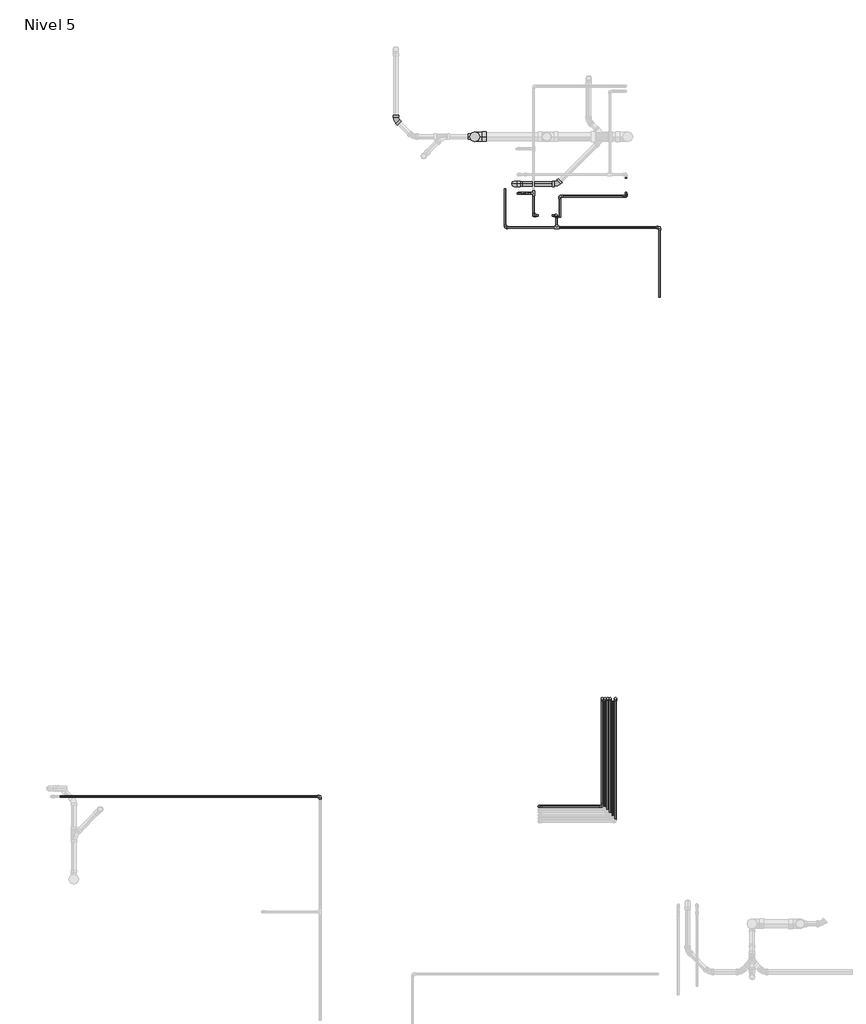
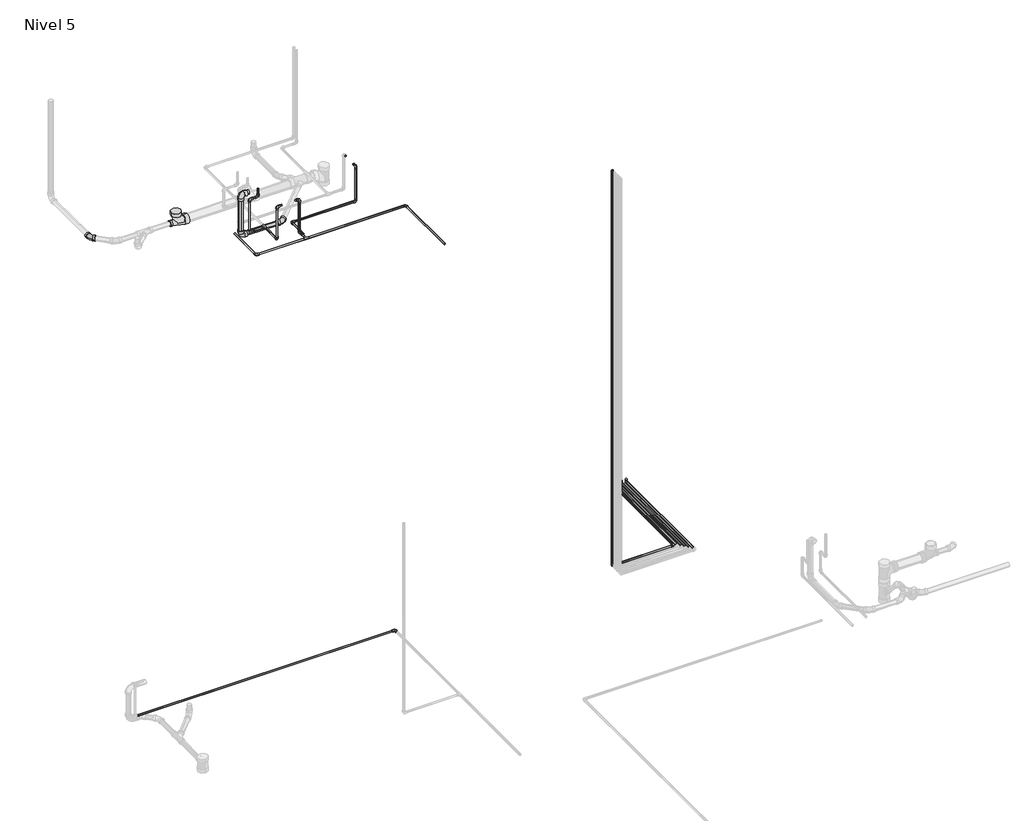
# One storey, part 5 of 6: 31 pipe segments, 27 pipe fittings.
"""IFC4 building model written with IfcOpenShell, lengths in millimetres."""

from ifc_helpers import new_model, si_unit, point, frame, frame_2d, origin, place, context, project, spatial, circle_curve, trimmed, segment, composite_curve, outline, extrude, transform, mapped, element, save
from components import pipe_fitting_ab418b84, pipe_fitting_44a425ca, m_codo_pvc_serie_40_9ad74631, m_codo_pvc_serie_40_d13c4332, m_codo_pvc_serie_40_dwv1_6f1a2495

model = new_model("IFC4")

# Units and contexts
model_context = context("Model", 3, world=origin())
ifc_project = project(units=[si_unit("LENGTHUNIT", "METRE", prefix="MILLI")], contexts=[model_context])

# Site, building, storey
site = spatial("IfcSite", under=ifc_project)
building = spatial("IfcBuilding", under=site)
storey = spatial("IfcBuildingStorey", under=building, Name="Nivel 5", Elevation=10750.0)

# Pipe fittings
placement = place(None, origin())
pipe_fitting_shape = pipe_fitting_ab418b84(model_context)
element("IfcPipeFitting", 1, ObjectType="M_Te - PVC - Serie 40 : Estándar", at=placement, inside=storey, context=model_context, shape_type="MappedRepresentation", body=[
    mapped(pipe_fitting_shape, transform((4675.7909326, 15776.6215833, 10700.0), x_axis=(0.0, -1.0, 0.0), y_axis=(1.0, 0.0, 0.0), z_axis=(0.0, 0.0, 1.0))),
])
element("IfcPipeFitting", 2, ObjectType="M_Te - PVC - Serie 40 : Estándar", at=placement, inside=storey, context=model_context, shape_type="MappedRepresentation", body=[
    mapped(pipe_fitting_shape, transform((4965.7909326, 15346.0079275, 10700.0), x_axis=(1.0, 0.0, 0.0), y_axis=(0.0, -1.0, 0.0), z_axis=(0.0, 0.0, -1.0))),
])
element("IfcPipeFitting", 3, ObjectType="M_Te - PVC - Serie 40 : Estándar", at=placement, inside=storey, context=model_context, shape_type="MappedRepresentation", body=[
    mapped(pipe_fitting_shape, transform((5541.6630441, 9398.2681394, 10700.0), x_axis=(0.0, 0.0, 1.0), y_axis=(0.0, 1.0, 0.0), z_axis=(-1.0, 0.0, 0.0))),
])
element("IfcPipeFitting", 4, ObjectType="M_Te - PVC - Serie 40 : Estándar", at=placement, inside=storey, context=model_context, shape_type="MappedRepresentation", body=[
    mapped(pipe_fitting_shape, transform((5577.0674476, 9399.5181394, 10700.0), x_axis=(0.0, 0.0, 1.0), y_axis=(0.0, 1.0, 0.0), z_axis=(-1.0, 0.0, 0.0))),
])
element("IfcPipeFitting", 5, ObjectType="M_Te - PVC - Serie 40 : Estándar", at=placement, inside=storey, context=model_context, shape_type="MappedRepresentation", body=[
    mapped(pipe_fitting_shape, transform((5611.6630441, 9399.5181394, 10700.0), x_axis=(0.0, 0.0, 1.0), y_axis=(0.0, 1.0, 0.0), z_axis=(-1.0, 0.0, 0.0))),
])
element("IfcPipeFitting", 6, ObjectType="M_Te - PVC - Serie 40 : Estándar", at=placement, inside=storey, context=model_context, shape_type="MappedRepresentation", body=[
    mapped(pipe_fitting_shape, transform((5642.0674476, 9399.5181394, 10700.0), x_axis=(0.0, 0.0, 1.0), y_axis=(0.0, 1.0, 0.0), z_axis=(-1.0, 0.0, 0.0))),
])
element("IfcPipeFitting", 7, ObjectType="M_Te - PVC - Serie 40 : Estándar", at=placement, inside=storey, context=model_context, shape_type="MappedRepresentation", body=[
    mapped(pipe_fitting_shape, transform((5709.5674476, 9399.5181394, 10700.0), x_axis=(0.0, 0.0, 1.0), y_axis=(0.0, 1.0, 0.0), z_axis=(-1.0, 0.0, 0.0))),
])
pipe_fitting_2_shape = pipe_fitting_44a425ca(model_context)
element("IfcPipeFitting", 8, ObjectType="M_Sanitario con te de reducción - PVC - Serie 40 - DWV : Estándar", at=placement, inside=storey, context=model_context, shape_type="MappedRepresentation", body=[
    mapped(pipe_fitting_2_shape, transform((3931.4116183, 16491.6039726, 10600.0), x_axis=(-1.0, 0.0, 0.0), y_axis=(0.0, 0.0, -1.0), z_axis=(0.0, -1.0, 0.0))),
])
m_codo_pvc_serie_40_shape = m_codo_pvc_serie_40_9ad74631(model_context)
element("IfcPipeFitting", 9, ObjectType="M_Codo - PVC - Serie 40 : Estándar", at=placement, inside=storey, context=model_context, shape_type="MappedRepresentation", body=[
    mapped(m_codo_pvc_serie_40_shape, transform((4589.8538958, 15776.6215833, 11150.0), x_axis=(0.0, 0.0, -1.0), y_axis=(-1.0, 0.0, 0.0), z_axis=(0.0, 1.0, 0.0))),
])
element("IfcPipeFitting", 10, ObjectType="M_Codo - PVC - Serie 40 : Estándar", at=placement, inside=storey, context=model_context, shape_type="MappedRepresentation", body=[
    mapped(m_codo_pvc_serie_40_shape, transform((4479.8538958, 15776.6215833, 11150.0), x_axis=(-1.0, 0.0, 0.0), y_axis=(0.0, 0.0, -1.0), z_axis=(0.0, -1.0, 0.0))),
])
element("IfcPipeFitting", 11, ObjectType="M_Codo - PVC - Serie 40 : Estándar", at=placement, inside=storey, context=model_context, shape_type="MappedRepresentation", body=[
    mapped(m_codo_pvc_serie_40_shape, transform((4479.8538958, 15776.6215833, 10700.0), x_axis=(0.0, 0.0, -1.0), y_axis=(1.0, 0.0, 0.0), z_axis=(0.0, -1.0, 0.0))),
])
element("IfcPipeFitting", 12, ObjectType="M_Codo - PVC - Serie 40 : Estándar", at=placement, inside=storey, context=model_context, shape_type="MappedRepresentation", body=[
    mapped(m_codo_pvc_serie_40_shape, transform((4965.7909326, 15495.0892611, 10700.0), x_axis=(0.0, 1.0, 0.0), y_axis=(0.0, 0.0, 1.0), z_axis=(1.0, 0.0, 0.0))),
])
element("IfcPipeFitting", 13, ObjectType="M_Codo - PVC - Serie 40 : Estándar", at=placement, inside=storey, context=model_context, shape_type="MappedRepresentation", body=[
    mapped(m_codo_pvc_serie_40_shape, transform((4965.7909326, 15495.0892611, 11150.0), x_axis=(0.0, 0.0, 1.0), y_axis=(-1.0, 0.0, 0.0), z_axis=(0.0, -1.0, 0.0))),
])
element("IfcPipeFitting", 14, ObjectType="M_Codo - PVC - Serie 40 : Estándar", at=placement, inside=storey, context=model_context, shape_type="MappedRepresentation", body=[
    mapped(m_codo_pvc_serie_40_shape, transform((4675.7909326, 15495.0892611, 11150.0), x_axis=(-1.0, 0.0, 0.0), y_axis=(0.0, 0.0, -1.0), z_axis=(0.0, -1.0, 0.0))),
])
element("IfcPipeFitting", 15, ObjectType="M_Codo - PVC - Serie 40 : Estándar", at=placement, inside=storey, context=model_context, shape_type="MappedRepresentation", body=[
    mapped(m_codo_pvc_serie_40_shape, transform((4675.7909326, 15495.0892611, 10700.0), x_axis=(0.0, 0.0, -1.0), y_axis=(0.0, 1.0, 0.0), z_axis=(1.0, 0.0, 0.0))),
])
element("IfcPipeFitting", 16, ObjectType="M_Codo - PVC - Serie 40 : Estándar", at=placement, inside=storey, context=model_context, shape_type="MappedRepresentation", body=[
    mapped(m_codo_pvc_serie_40_shape, transform((5007.0556508, 15740.0892611, 10670.0), x_axis=(-1.0, 0.0, 0.0), y_axis=(0.0, -1.0, 0.0), z_axis=(0.0, 0.0, 1.0))),
])
element("IfcPipeFitting", 17, ObjectType="M_Codo - PVC - Serie 40 : Estándar", at=placement, inside=storey, context=model_context, shape_type="MappedRepresentation", body=[
    mapped(m_codo_pvc_serie_40_shape, transform((5843.3695091, 15740.0892611, 10670.0), x_axis=(1.0, 0.0, 0.0), y_axis=(0.0, 0.0, 1.0), z_axis=(0.0, -1.0, 0.0))),
])
element("IfcPipeFitting", 18, ObjectType="M_Codo - PVC - Serie 40 : Estándar", at=placement, inside=storey, context=model_context, shape_type="MappedRepresentation", body=[
    mapped(m_codo_pvc_serie_40_shape, transform((5843.3695091, 15740.0892611, 11150.0), x_axis=(0.0, 0.0, 1.0), y_axis=(0.0, 1.0, 0.0), z_axis=(-1.0, 0.0, 0.0))),
])
element("IfcPipeFitting", 19, ObjectType="M_Codo - PVC - Serie 40 : Estándar", at=placement, inside=storey, context=model_context, shape_type="MappedRepresentation", body=[
    mapped(m_codo_pvc_serie_40_shape, transform((4315.7909326, 15346.0079275, 10700.0), x_axis=(0.0, -1.0, 0.0), y_axis=(1.0, 0.0, 0.0), z_axis=(0.0, 0.0, 1.0))),
])
element("IfcPipeFitting", 20, ObjectType="M_Codo - PVC - Serie 40 : Estándar", at=placement, inside=storey, context=model_context, shape_type="MappedRepresentation", body=[
    mapped(m_codo_pvc_serie_40_shape, transform((6266.2510888, 15346.0079275, 10700.0), x_axis=(0.0, 1.0, 0.0), y_axis=(-1.0, 0.0, 0.0), z_axis=(0.0, 0.0, 1.0))),
])
element("IfcPipeFitting", 21, ObjectType="M_Codo - PVC - Serie 40 : Estándar", at=placement, inside=storey, context=model_context, shape_type="MappedRepresentation", body=[
    mapped(m_codo_pvc_serie_40_shape, transform((1981.5388199, 8163.1716188, 10700.0), x_axis=(0.0, 1.0, 0.0), y_axis=(-1.0, 0.0, 0.0), z_axis=(0.0, 0.0, 1.0))),
])
element("IfcPipeFitting", 22, ObjectType="M_Codo - PVC - Serie 40 : Estándar", at=placement, inside=storey, context=model_context, shape_type="MappedRepresentation", body=[
    mapped(m_codo_pvc_serie_40_shape, transform((5541.6630441, 8038.2681394, 10700.0), x_axis=(1.0, 0.0, 0.0), y_axis=(0.0, 1.0, 0.0), z_axis=(0.0, 0.0, 1.0))),
])
element("IfcPipeFitting", 23, ObjectType="M_Codo - PVC - Serie 40 : Estándar", at=placement, inside=storey, context=model_context, shape_type="MappedRepresentation", body=[
    mapped(m_codo_pvc_serie_40_shape, transform((4741.6630441, 8038.2681394, 10700.0), x_axis=(-1.0, 0.0, 0.0), y_axis=(0.0, 0.0, 1.0), z_axis=(0.0, 1.0, 0.0))),
])
m_codo_pvc_serie_40_2_shape = m_codo_pvc_serie_40_d13c4332(model_context)
element("IfcPipeFitting", 24, ObjectType="M_Codo - PVC - Serie 40 : Estándar", at=placement, inside=storey, context=model_context, shape_type="MappedRepresentation", body=[
    mapped(m_codo_pvc_serie_40_2_shape, transform((4432.8617442, 15895.0, 11160.6716548), x_axis=(-1.0, 0.0, 0.0), y_axis=(0.0, 0.0, -1.0), z_axis=(0.0, -1.0, 0.0))),
])
element("IfcPipeFitting", 25, ObjectType="M_Codo - PVC - Serie 40 : Estándar", at=placement, inside=storey, context=model_context, shape_type="MappedRepresentation", body=[
    mapped(m_codo_pvc_serie_40_2_shape, transform((4432.8617442, 15895.0, 10600.0), x_axis=(0.0, 0.0, -1.0), y_axis=(1.0, 0.0, 0.0), z_axis=(0.0, -1.0, 0.0))),
])
m_codo_pvc_serie_40_dwv1_shape = m_codo_pvc_serie_40_dwv1_6f1a2495(model_context)
element("IfcPipeFitting", 26, ObjectType="M_Codo - PVC - Serie 40 - DWV1 : Estándar 2", at=placement, inside=storey, context=model_context, shape_type="MappedRepresentation", body=[
    mapped(m_codo_pvc_serie_40_dwv1_shape, transform((2937.3500424, 16703.736007, 10600.0), x_axis=(0.0, -1.0, 0.0), y_axis=(1.0, 0.0, 0.0), z_axis=(0.0, 0.0, 1.0))),
])
element("IfcPipeFitting", 27, ObjectType="M_Codo - PVC - Serie 40 - DWV1 : Estándar 2", at=placement, inside=storey, context=model_context, shape_type="MappedRepresentation", body=[
    mapped(m_codo_pvc_serie_40_dwv1_shape, transform((4969.321374, 15895.0, 10600.0), x_axis=(1.0, 0.0, 0.0), y_axis=(0.0, 1.0, 0.0), z_axis=(0.0, 0.0, 1.0))),
])

# Pipe segments
element("IfcPipeSegment", 28, ObjectType="Tuberia PVC Agua Fria", at=placement, inside=storey, context=model_context, shape_type="SweptSolid", body=[
    extrude(outline(composite_curve([segment(trimmed(circle_curve(frame_2d((10700.0, 4965.7909326)), 10.31875), [point((10700.0, 4976.1096826))], [point((10710.31875, 4965.7909326))], False, "CARTESIAN"), True, "CONTINUOUS"), segment(trimmed(circle_curve(frame_2d((10700.0, 4965.7909326)), 10.31875), [point((10710.31875, 4965.7909326))], [point((10700.0, 4955.4721826))], False, "CARTESIAN"), True, "CONTINUOUS"), segment(trimmed(circle_curve(frame_2d((10700.0, 4965.7909326)), 10.31875), [point((10700.0, 4955.4721826))], [point((10689.68125, 4965.7909326))], False, "CARTESIAN"), True, "CONTINUOUS"), segment(trimmed(circle_curve(frame_2d((10700.0, 4965.7909326)), 10.31875), [point((10689.68125, 4965.7909326))], [point((10700.0, 4976.1096826))], False, "CARTESIAN"), True, "CONTINUOUS")], self_intersect=False)), frame((0.0, 15376.4680837, 0.0), z_axis=(0.0, 1.0, 0.0), x_axis=(0.0, 0.0, 1.0)), (0.0, 0.0, 1.0), 85.2201774),
])
element("IfcPipeSegment", 29, ObjectType="Tuberia PVC Agua Fria", at=placement, inside=storey, context=model_context, shape_type="SweptSolid", body=[
    extrude(outline(composite_curve([segment(trimmed(circle_curve(frame_2d((15776.6215833, 11150.0)), 10.31875), [point((15786.9403333, 11150.0))], [point((15776.6215833, 11139.68125))], False, "CARTESIAN"), True, "CONTINUOUS"), segment(trimmed(circle_curve(frame_2d((15776.6215833, 11150.0)), 10.31875), [point((15776.6215833, 11139.68125))], [point((15766.3028333, 11150.0))], False, "CARTESIAN"), True, "CONTINUOUS"), segment(trimmed(circle_curve(frame_2d((15776.6215833, 11150.0)), 10.31875), [point((15766.3028333, 11150.0))], [point((15776.6215833, 11160.31875))], False, "CARTESIAN"), True, "CONTINUOUS"), segment(trimmed(circle_curve(frame_2d((15776.6215833, 11150.0)), 10.31875), [point((15776.6215833, 11160.31875))], [point((15786.9403333, 11150.0))], False, "CARTESIAN"), True, "CONTINUOUS")], self_intersect=False)), frame((4513.2548958, 0.0, 0.0), z_axis=(1.0, 0.0, 0.0), x_axis=(0.0, 1.0, 0.0)), (0.0, 0.0, 1.0), 43.198),
])
element("IfcPipeSegment", 30, ObjectType="Tuberia PVC Agua Fria", at=placement, inside=storey, context=model_context, shape_type="SweptSolid", body=[
    extrude(outline(composite_curve([segment(trimmed(circle_curve(frame_2d((4589.8538958, 15776.6215833)), 10.31875), [point((4600.1726458, 15776.6215833))], [point((4589.8538958, 15766.3028333))], False, "CARTESIAN"), True, "CONTINUOUS"), segment(trimmed(circle_curve(frame_2d((4589.8538958, 15776.6215833)), 10.31875), [point((4589.8538958, 15766.3028333))], [point((4579.5351458, 15776.6215833))], False, "CARTESIAN"), True, "CONTINUOUS"), segment(trimmed(circle_curve(frame_2d((4589.8538958, 15776.6215833)), 10.31875), [point((4579.5351458, 15776.6215833))], [point((4589.8538958, 15786.9403333))], False, "CARTESIAN"), True, "CONTINUOUS"), segment(trimmed(circle_curve(frame_2d((4589.8538958, 15776.6215833)), 10.31875), [point((4589.8538958, 15786.9403333))], [point((4600.1726458, 15776.6215833))], False, "CARTESIAN"), True, "CONTINUOUS")], self_intersect=False)), frame((0.0, 0.0, 11183.401), z_axis=(0.0, 0.0, 1.0), x_axis=(1.0, 0.0, 0.0)), (0.0, 0.0, 1.0), 74.0983614),
])
element("IfcPipeSegment", 31, ObjectType="Tuberia PVC Agua Fria", at=placement, inside=storey, context=model_context, shape_type="SweptSolid", body=[
    extrude(outline(composite_curve([segment(trimmed(circle_curve(frame_2d((4479.8538958, 15776.6215833)), 10.31875), [point((4490.1726458, 15776.6215833))], [point((4479.8538958, 15766.3028333))], False, "CARTESIAN"), True, "CONTINUOUS"), segment(trimmed(circle_curve(frame_2d((4479.8538958, 15776.6215833)), 10.31875), [point((4479.8538958, 15766.3028333))], [point((4469.5351458, 15776.6215833))], False, "CARTESIAN"), True, "CONTINUOUS"), segment(trimmed(circle_curve(frame_2d((4479.8538958, 15776.6215833)), 10.31875), [point((4469.5351458, 15776.6215833))], [point((4479.8538958, 15786.9403333))], False, "CARTESIAN"), True, "CONTINUOUS"), segment(trimmed(circle_curve(frame_2d((4479.8538958, 15776.6215833)), 10.31875), [point((4479.8538958, 15786.9403333))], [point((4490.1726458, 15776.6215833))], False, "CARTESIAN"), True, "CONTINUOUS")], self_intersect=False)), frame((0.0, 0.0, 10733.401), z_axis=(0.0, 0.0, 1.0), x_axis=(1.0, 0.0, 0.0)), (0.0, 0.0, 1.0), 383.198),
])
element("IfcPipeSegment", 32, ObjectType="Tuberia PVC Agua Fria", at=placement, inside=storey, context=model_context, shape_type="SweptSolid", body=[
    extrude(outline(composite_curve([segment(trimmed(circle_curve(frame_2d((15495.0892611, 11150.0)), 10.31875), [point((15505.4080111, 11150.0))], [point((15495.0892611, 11139.68125))], False, "CARTESIAN"), True, "CONTINUOUS"), segment(trimmed(circle_curve(frame_2d((15495.0892611, 11150.0)), 10.31875), [point((15495.0892611, 11139.68125))], [point((15484.7705111, 11150.0))], False, "CARTESIAN"), True, "CONTINUOUS"), segment(trimmed(circle_curve(frame_2d((15495.0892611, 11150.0)), 10.31875), [point((15484.7705111, 11150.0))], [point((15495.0892611, 11160.31875))], False, "CARTESIAN"), True, "CONTINUOUS"), segment(trimmed(circle_curve(frame_2d((15495.0892611, 11150.0)), 10.31875), [point((15495.0892611, 11160.31875))], [point((15505.4080111, 11150.0))], False, "CARTESIAN"), True, "CONTINUOUS")], self_intersect=False)), frame((4709.1919326, 0.0, 0.0), z_axis=(1.0, 0.0, 0.0), x_axis=(0.0, 1.0, 0.0)), (0.0, 0.0, 1.0), 25.099),
])
element("IfcPipeSegment", 33, ObjectType="Tuberia PVC Agua Fria", at=placement, inside=storey, context=model_context, shape_type="SweptSolid", body=[
    extrude(outline(composite_curve([segment(trimmed(circle_curve(frame_2d((4965.7909326, 15495.0892611)), 10.31875), [point((4955.4721826, 15495.0892611))], [point((4965.7909326, 15505.4080111))], False, "CARTESIAN"), True, "CONTINUOUS"), segment(trimmed(circle_curve(frame_2d((4965.7909326, 15495.0892611)), 10.31875), [point((4965.7909326, 15505.4080111))], [point((4976.1096826, 15495.0892611))], False, "CARTESIAN"), True, "CONTINUOUS"), segment(trimmed(circle_curve(frame_2d((4965.7909326, 15495.0892611)), 10.31875), [point((4976.1096826, 15495.0892611))], [point((4965.7909326, 15484.7705111))], False, "CARTESIAN"), True, "CONTINUOUS"), segment(trimmed(circle_curve(frame_2d((4965.7909326, 15495.0892611)), 10.31875), [point((4965.7909326, 15484.7705111))], [point((4955.4721826, 15495.0892611))], False, "CARTESIAN"), True, "CONTINUOUS")], self_intersect=False)), frame((0.0, 0.0, 10733.401), z_axis=(0.0, 0.0, 1.0), x_axis=(1.0, 0.0, 0.0)), (0.0, 0.0, 1.0), 383.198),
])
element("IfcPipeSegment", 34, ObjectType="Tuberia PVC Agua Fria", at=placement, inside=storey, context=model_context, shape_type="SweptSolid", body=[
    extrude(outline(composite_curve([segment(trimmed(circle_curve(frame_2d((4675.7909326, 15495.0892611)), 10.31875), [point((4686.1096826, 15495.0892611))], [point((4675.7909326, 15484.7705111))], False, "CARTESIAN"), True, "CONTINUOUS"), segment(trimmed(circle_curve(frame_2d((4675.7909326, 15495.0892611)), 10.31875), [point((4675.7909326, 15484.7705111))], [point((4665.4721826, 15495.0892611))], False, "CARTESIAN"), True, "CONTINUOUS"), segment(trimmed(circle_curve(frame_2d((4675.7909326, 15495.0892611)), 10.31875), [point((4665.4721826, 15495.0892611))], [point((4675.7909326, 15505.4080111))], False, "CARTESIAN"), True, "CONTINUOUS"), segment(trimmed(circle_curve(frame_2d((4675.7909326, 15495.0892611)), 10.31875), [point((4675.7909326, 15505.4080111))], [point((4686.1096826, 15495.0892611))], False, "CARTESIAN"), True, "CONTINUOUS")], self_intersect=False)), frame((0.0, 0.0, 10733.401), z_axis=(0.0, 0.0, 1.0), x_axis=(1.0, 0.0, 0.0)), (0.0, 0.0, 1.0), 383.198),
])
element("IfcPipeSegment", 35, ObjectType="Tuberia PVC Agua Fria", at=placement, inside=storey, context=model_context, shape_type="SweptSolid", body=[
    extrude(outline(composite_curve([segment(trimmed(circle_curve(frame_2d((10700.0, 4675.7909326)), 10.31875), [point((10700.0, 4686.1096826))], [point((10710.31875, 4675.7909326))], False, "CARTESIAN"), True, "CONTINUOUS"), segment(trimmed(circle_curve(frame_2d((10700.0, 4675.7909326)), 10.31875), [point((10710.31875, 4675.7909326))], [point((10700.0, 4665.4721826))], False, "CARTESIAN"), True, "CONTINUOUS"), segment(trimmed(circle_curve(frame_2d((10700.0, 4675.7909326)), 10.31875), [point((10700.0, 4665.4721826))], [point((10689.68125, 4675.7909326))], False, "CARTESIAN"), True, "CONTINUOUS"), segment(trimmed(circle_curve(frame_2d((10700.0, 4675.7909326)), 10.31875), [point((10689.68125, 4675.7909326))], [point((10700.0, 4686.1096826))], False, "CARTESIAN"), True, "CONTINUOUS")], self_intersect=False)), frame((0.0, 15528.4902611, 0.0), z_axis=(0.0, 1.0, 0.0), x_axis=(0.0, 0.0, 1.0)), (0.0, 0.0, 1.0), 217.671166),
])
element("IfcPipeSegment", 36, ObjectType="Tuberia PVC Agua Fria", at=placement, inside=storey, context=model_context, shape_type="SweptSolid", body=[
    extrude(outline(composite_curve([segment(trimmed(circle_curve(frame_2d((15776.6215833, 10700.0)), 10.31875), [point((15766.3028333, 10700.0))], [point((15776.6215833, 10710.31875))], False, "CARTESIAN"), True, "CONTINUOUS"), segment(trimmed(circle_curve(frame_2d((15776.6215833, 10700.0)), 10.31875), [point((15776.6215833, 10710.31875))], [point((15786.9403333, 10700.0))], False, "CARTESIAN"), True, "CONTINUOUS"), segment(trimmed(circle_curve(frame_2d((15776.6215833, 10700.0)), 10.31875), [point((15786.9403333, 10700.0))], [point((15776.6215833, 10689.68125))], False, "CARTESIAN"), True, "CONTINUOUS"), segment(trimmed(circle_curve(frame_2d((15776.6215833, 10700.0)), 10.31875), [point((15776.6215833, 10689.68125))], [point((15766.3028333, 10700.0))], False, "CARTESIAN"), True, "CONTINUOUS")], self_intersect=False)), frame((4513.2548958, 0.0, 0.0), z_axis=(1.0, 0.0, 0.0), x_axis=(0.0, 1.0, 0.0)), (0.0, 0.0, 1.0), 132.0758805),
])
element("IfcPipeSegment", 37, ObjectType="Tuberia PVC Agua Fria", at=placement, inside=storey, context=model_context, shape_type="SweptSolid", body=[
    extrude(outline(composite_curve([segment(trimmed(circle_curve(frame_2d((15495.0892611, 11150.0)), 10.31875), [point((15505.4080111, 11150.0))], [point((15495.0892611, 11139.68125))], False, "CARTESIAN"), True, "CONTINUOUS"), segment(trimmed(circle_curve(frame_2d((15495.0892611, 11150.0)), 10.31875), [point((15495.0892611, 11139.68125))], [point((15484.7705111, 11150.0))], False, "CARTESIAN"), True, "CONTINUOUS"), segment(trimmed(circle_curve(frame_2d((15495.0892611, 11150.0)), 10.31875), [point((15484.7705111, 11150.0))], [point((15495.0892611, 11160.31875))], False, "CARTESIAN"), True, "CONTINUOUS"), segment(trimmed(circle_curve(frame_2d((15495.0892611, 11150.0)), 10.31875), [point((15495.0892611, 11160.31875))], [point((15505.4080111, 11150.0))], False, "CARTESIAN"), True, "CONTINUOUS")], self_intersect=False)), frame((4912.2909326, 0.0, 0.0), z_axis=(1.0, 0.0, 0.0), x_axis=(0.0, 1.0, 0.0)), (0.0, 0.0, 1.0), 20.099),
])
element("IfcPipeSegment", 38, ObjectType="Tuberia PVC Agua Fria", at=placement, inside=storey, context=model_context, shape_type="SweptSolid", body=[
    extrude(outline(composite_curve([segment(trimmed(circle_curve(frame_2d((15346.0079275, 10700.0)), 10.31875), [point((15356.3266775, 10700.0))], [point((15346.0079275, 10689.68125))], False, "CARTESIAN"), True, "CONTINUOUS"), segment(trimmed(circle_curve(frame_2d((15346.0079275, 10700.0)), 10.31875), [point((15346.0079275, 10689.68125))], [point((15335.6891775, 10700.0))], False, "CARTESIAN"), True, "CONTINUOUS"), segment(trimmed(circle_curve(frame_2d((15346.0079275, 10700.0)), 10.31875), [point((15335.6891775, 10700.0))], [point((15346.0079275, 10710.31875))], False, "CARTESIAN"), True, "CONTINUOUS"), segment(trimmed(circle_curve(frame_2d((15346.0079275, 10700.0)), 10.31875), [point((15346.0079275, 10710.31875))], [point((15356.3266775, 10700.0))], False, "CARTESIAN"), True, "CONTINUOUS")], self_intersect=False)), frame((4349.1919326, 0.0, 0.0), z_axis=(1.0, 0.0, 0.0), x_axis=(0.0, 1.0, 0.0)), (0.0, 0.0, 1.0), 586.1388437),
])
element("IfcPipeSegment", 39, ObjectType="Tuberia PVC Agua Fria", at=placement, inside=storey, context=model_context, shape_type="SweptSolid", body=[
    extrude(outline(composite_curve([segment(trimmed(circle_curve(frame_2d((10700.0, 4315.7909326)), 10.31875), [point((10700.0, 4326.1096826))], [point((10710.31875, 4315.7909326))], False, "CARTESIAN"), True, "CONTINUOUS"), segment(trimmed(circle_curve(frame_2d((10700.0, 4315.7909326)), 10.31875), [point((10710.31875, 4315.7909326))], [point((10700.0, 4305.4721826))], False, "CARTESIAN"), True, "CONTINUOUS"), segment(trimmed(circle_curve(frame_2d((10700.0, 4315.7909326)), 10.31875), [point((10700.0, 4305.4721826))], [point((10689.68125, 4315.7909326))], False, "CARTESIAN"), True, "CONTINUOUS"), segment(trimmed(circle_curve(frame_2d((10700.0, 4315.7909326)), 10.31875), [point((10689.68125, 4315.7909326))], [point((10700.0, 4326.1096826))], False, "CARTESIAN"), True, "CONTINUOUS")], self_intersect=False)), frame((0.0, 15379.4089275, 0.0), z_axis=(0.0, 1.0, 0.0), x_axis=(0.0, 0.0, 1.0)), (0.0, 0.0, 1.0), 451.599),
])
element("IfcPipeSegment", 40, ObjectType="Tuberia PVC Agua Fria", at=placement, inside=storey, context=model_context, shape_type="SweptSolid", body=[
    extrude(outline(composite_curve([segment(trimmed(circle_curve(frame_2d((15346.0079275, 10700.0)), 10.31875), [point((15335.6891775, 10700.0))], [point((15346.0079275, 10710.31875))], False, "CARTESIAN"), True, "CONTINUOUS"), segment(trimmed(circle_curve(frame_2d((15346.0079275, 10700.0)), 10.31875), [point((15346.0079275, 10710.31875))], [point((15356.3266775, 10700.0))], False, "CARTESIAN"), True, "CONTINUOUS"), segment(trimmed(circle_curve(frame_2d((15346.0079275, 10700.0)), 10.31875), [point((15356.3266775, 10700.0))], [point((15346.0079275, 10689.68125))], False, "CARTESIAN"), True, "CONTINUOUS"), segment(trimmed(circle_curve(frame_2d((15346.0079275, 10700.0)), 10.31875), [point((15346.0079275, 10689.68125))], [point((15335.6891775, 10700.0))], False, "CARTESIAN"), True, "CONTINUOUS")], self_intersect=False)), frame((4996.2510888, 0.0, 0.0), z_axis=(1.0, 0.0, 0.0), x_axis=(0.0, 1.0, 0.0)), (0.0, 0.0, 1.0), 1236.599),
])
element("IfcPipeSegment", 41, ObjectType="Tuberia PVC Agua Fria", at=placement, inside=storey, context=model_context, shape_type="SweptSolid", body=[
    extrude(outline(composite_curve([segment(trimmed(circle_curve(frame_2d((10700.0, 6266.2510888)), 10.31875), [point((10700.0, 6255.9323388))], [point((10689.68125, 6266.2510888))], False, "CARTESIAN"), True, "CONTINUOUS"), segment(trimmed(circle_curve(frame_2d((10700.0, 6266.2510888)), 10.31875), [point((10689.68125, 6266.2510888))], [point((10700.0, 6276.5698388))], False, "CARTESIAN"), True, "CONTINUOUS"), segment(trimmed(circle_curve(frame_2d((10700.0, 6266.2510888)), 10.31875), [point((10700.0, 6276.5698388))], [point((10710.31875, 6266.2510888))], False, "CARTESIAN"), True, "CONTINUOUS"), segment(trimmed(circle_curve(frame_2d((10700.0, 6266.2510888)), 10.31875), [point((10710.31875, 6266.2510888))], [point((10700.0, 6255.9323388))], False, "CARTESIAN"), True, "CONTINUOUS")], self_intersect=False)), frame((0.0, 14466.0079275, 0.0), z_axis=(0.0, 1.0, 0.0), x_axis=(0.0, 0.0, 1.0)), (0.0, 0.0, 1.0), 846.599),
])
element("IfcPipeSegment", 42, ObjectType="Tuberia PVC Agua Fria", at=placement, inside=storey, context=model_context, shape_type="SweptSolid", body=[
    extrude(outline(composite_curve([segment(trimmed(circle_curve(frame_2d((8163.1716188, 10700.0)), 10.31875), [point((8173.4903688, 10700.0))], [point((8163.1716188, 10689.68125))], False, "CARTESIAN"), True, "CONTINUOUS"), segment(trimmed(circle_curve(frame_2d((8163.1716188, 10700.0)), 10.31875), [point((8163.1716188, 10689.68125))], [point((8152.8528688, 10700.0))], False, "CARTESIAN"), True, "CONTINUOUS"), segment(trimmed(circle_curve(frame_2d((8163.1716188, 10700.0)), 10.31875), [point((8152.8528688, 10700.0))], [point((8163.1716188, 10710.31875))], False, "CARTESIAN"), True, "CONTINUOUS"), segment(trimmed(circle_curve(frame_2d((8163.1716188, 10700.0)), 10.31875), [point((8163.1716188, 10710.31875))], [point((8173.4903688, 10700.0))], False, "CARTESIAN"), True, "CONTINUOUS")], self_intersect=False)), frame((-1375.0601801, 0.0, 0.0), z_axis=(1.0, 0.0, 0.0), x_axis=(0.0, 1.0, 0.0)), (0.0, 0.0, 1.0), 3323.198),
])
element("IfcPipeSegment", 43, ObjectType="Tuberia PVC Agua Fria", at=placement, inside=storey, context=model_context, shape_type="SweptSolid", body=[
    extrude(outline(composite_curve([segment(trimmed(circle_curve(frame_2d((10700.0, 5541.6630441)), 10.31875), [point((10700.0, 5531.3442941))], [point((10689.68125, 5541.6630441))], False, "CARTESIAN"), True, "CONTINUOUS"), segment(trimmed(circle_curve(frame_2d((10700.0, 5541.6630441)), 10.31875), [point((10689.68125, 5541.6630441))], [point((10700.0, 5551.9817941))], False, "CARTESIAN"), True, "CONTINUOUS"), segment(trimmed(circle_curve(frame_2d((10700.0, 5541.6630441)), 10.31875), [point((10700.0, 5551.9817941))], [point((10710.31875, 5541.6630441))], False, "CARTESIAN"), True, "CONTINUOUS"), segment(trimmed(circle_curve(frame_2d((10700.0, 5541.6630441)), 10.31875), [point((10710.31875, 5541.6630441))], [point((10700.0, 5531.3442941))], False, "CARTESIAN"), True, "CONTINUOUS")], self_intersect=False)), frame((0.0, 8071.6691394, 0.0), z_axis=(0.0, 1.0, 0.0), x_axis=(0.0, 0.0, 1.0)), (0.0, 0.0, 1.0), 1296.1388438),
])
element("IfcPipeSegment", 44, ObjectType="Tuberia PVC Agua Fria", at=placement, inside=storey, context=model_context, shape_type="SweptSolid", body=[
    extrude(outline(composite_curve([segment(trimmed(circle_curve(frame_2d((8038.2681394, 10700.0)), 10.31875), [point((8048.5868894, 10700.0))], [point((8038.2681394, 10689.68125))], False, "CARTESIAN"), True, "CONTINUOUS"), segment(trimmed(circle_curve(frame_2d((8038.2681394, 10700.0)), 10.31875), [point((8038.2681394, 10689.68125))], [point((8027.9493894, 10700.0))], False, "CARTESIAN"), True, "CONTINUOUS"), segment(trimmed(circle_curve(frame_2d((8038.2681394, 10700.0)), 10.31875), [point((8027.9493894, 10700.0))], [point((8038.2681394, 10710.31875))], False, "CARTESIAN"), True, "CONTINUOUS"), segment(trimmed(circle_curve(frame_2d((8038.2681394, 10700.0)), 10.31875), [point((8038.2681394, 10710.31875))], [point((8048.5868894, 10700.0))], False, "CARTESIAN"), True, "CONTINUOUS")], self_intersect=False)), frame((4775.0640441, 0.0, 0.0), z_axis=(1.0, 0.0, 0.0), x_axis=(0.0, 1.0, 0.0)), (0.0, 0.0, 1.0), 733.198),
])
element("IfcPipeSegment", 45, ObjectType="Tuberia PVC Agua Fria", at=placement, inside=storey, context=model_context, shape_type="SweptSolid", body=[
    extrude(outline(composite_curve([segment(trimmed(circle_curve(frame_2d((4741.6630441, 8038.2681394)), 10.31875), [point((4731.3442941, 8038.2681394))], [point((4741.6630441, 8048.5868894))], False, "CARTESIAN"), True, "CONTINUOUS"), segment(trimmed(circle_curve(frame_2d((4741.6630441, 8038.2681394)), 10.31875), [point((4741.6630441, 8048.5868894))], [point((4751.9817941, 8038.2681394))], False, "CARTESIAN"), True, "CONTINUOUS"), segment(trimmed(circle_curve(frame_2d((4741.6630441, 8038.2681394)), 10.31875), [point((4751.9817941, 8038.2681394))], [point((4741.6630441, 8027.9493894))], False, "CARTESIAN"), True, "CONTINUOUS"), segment(trimmed(circle_curve(frame_2d((4741.6630441, 8038.2681394)), 10.31875), [point((4741.6630441, 8027.9493894))], [point((4731.3442941, 8038.2681394))], False, "CARTESIAN"), True, "CONTINUOUS")], self_intersect=False)), frame((0.0, 0.0, 10733.401), z_axis=(0.0, 0.0, 1.0), x_axis=(1.0, 0.0, 0.0)), (0.0, 0.0, 1.0), 5416.599),
])
element("IfcPipeSegment", 46, ObjectType="Tuberia PVC Agua Fria", at=placement, inside=storey, context=model_context, shape_type="SweptSolid", body=[
    extrude(outline(composite_curve([segment(trimmed(circle_curve(frame_2d((10700.0, 5577.0674476)), 10.31875), [point((10700.0, 5566.7486976))], [point((10689.68125, 5577.0674476))], False, "CARTESIAN"), True, "CONTINUOUS"), segment(trimmed(circle_curve(frame_2d((10700.0, 5577.0674476)), 10.31875), [point((10689.68125, 5577.0674476))], [point((10700.0, 5587.3861976))], False, "CARTESIAN"), True, "CONTINUOUS"), segment(trimmed(circle_curve(frame_2d((10700.0, 5577.0674476)), 10.31875), [point((10700.0, 5587.3861976))], [point((10710.31875, 5577.0674476))], False, "CARTESIAN"), True, "CONTINUOUS"), segment(trimmed(circle_curve(frame_2d((10700.0, 5577.0674476)), 10.31875), [point((10710.31875, 5577.0674476))], [point((10700.0, 5566.7486976))], False, "CARTESIAN"), True, "CONTINUOUS")], self_intersect=False)), frame((0.0, 8032.9191394, 0.0), z_axis=(0.0, 1.0, 0.0), x_axis=(0.0, 0.0, 1.0)), (0.0, 0.0, 1.0), 1336.1388437),
])
element("IfcPipeSegment", 47, ObjectType="Tuberia PVC Agua Fria", at=placement, inside=storey, context=model_context, shape_type="SweptSolid", body=[
    extrude(outline(composite_curve([segment(trimmed(circle_curve(frame_2d((10700.0, 5611.6630441)), 10.31875), [point((10700.0, 5601.3442941))], [point((10689.68125, 5611.6630441))], False, "CARTESIAN"), True, "CONTINUOUS"), segment(trimmed(circle_curve(frame_2d((10700.0, 5611.6630441)), 10.31875), [point((10689.68125, 5611.6630441))], [point((10700.0, 5621.9817941))], False, "CARTESIAN"), True, "CONTINUOUS"), segment(trimmed(circle_curve(frame_2d((10700.0, 5611.6630441)), 10.31875), [point((10700.0, 5621.9817941))], [point((10710.31875, 5611.6630441))], False, "CARTESIAN"), True, "CONTINUOUS"), segment(trimmed(circle_curve(frame_2d((10700.0, 5611.6630441)), 10.31875), [point((10710.31875, 5611.6630441))], [point((10700.0, 5601.3442941))], False, "CARTESIAN"), True, "CONTINUOUS")], self_intersect=False)), frame((0.0, 7997.9191394, 0.0), z_axis=(0.0, 1.0, 0.0), x_axis=(0.0, 0.0, 1.0)), (0.0, 0.0, 1.0), 1371.1388438),
])
element("IfcPipeSegment", 48, ObjectType="Tuberia PVC Agua Fria", at=placement, inside=storey, context=model_context, shape_type="SweptSolid", body=[
    extrude(outline(composite_curve([segment(trimmed(circle_curve(frame_2d((10700.0, 5642.0674476)), 10.31875), [point((10700.0, 5631.7486976))], [point((10689.68125, 5642.0674476))], False, "CARTESIAN"), True, "CONTINUOUS"), segment(trimmed(circle_curve(frame_2d((10700.0, 5642.0674476)), 10.31875), [point((10689.68125, 5642.0674476))], [point((10700.0, 5652.3861976))], False, "CARTESIAN"), True, "CONTINUOUS"), segment(trimmed(circle_curve(frame_2d((10700.0, 5642.0674476)), 10.31875), [point((10700.0, 5652.3861976))], [point((10710.31875, 5642.0674476))], False, "CARTESIAN"), True, "CONTINUOUS"), segment(trimmed(circle_curve(frame_2d((10700.0, 5642.0674476)), 10.31875), [point((10710.31875, 5642.0674476))], [point((10700.0, 5631.7486976))], False, "CARTESIAN"), True, "CONTINUOUS")], self_intersect=False)), frame((0.0, 7957.9191394, 0.0), z_axis=(0.0, 1.0, 0.0), x_axis=(0.0, 0.0, 1.0)), (0.0, 0.0, 1.0), 1411.1388437),
])
element("IfcPipeSegment", 49, ObjectType="Tuberia PVC Agua Fria", at=placement, inside=storey, context=model_context, shape_type="SweptSolid", body=[
    extrude(outline(composite_curve([segment(trimmed(circle_curve(frame_2d((10700.0, 5676.6630441)), 10.31875), [point((10700.0, 5666.3442941))], [point((10689.68125, 5676.6630441))], False, "CARTESIAN"), True, "CONTINUOUS"), segment(trimmed(circle_curve(frame_2d((10700.0, 5676.6630441)), 10.31875), [point((10689.68125, 5676.6630441))], [point((10700.0, 5686.9817941))], False, "CARTESIAN"), True, "CONTINUOUS"), segment(trimmed(circle_curve(frame_2d((10700.0, 5676.6630441)), 10.31875), [point((10700.0, 5686.9817941))], [point((10710.31875, 5676.6630441))], False, "CARTESIAN"), True, "CONTINUOUS"), segment(trimmed(circle_curve(frame_2d((10700.0, 5676.6630441)), 10.31875), [point((10710.31875, 5676.6630441))], [point((10700.0, 5666.3442941))], False, "CARTESIAN"), True, "CONTINUOUS")], self_intersect=False)), frame((0.0, 7917.9191394, 0.0), z_axis=(0.0, 1.0, 0.0), x_axis=(0.0, 0.0, 1.0)), (0.0, 0.0, 1.0), 1448.198),
])
element("IfcPipeSegment", 50, ObjectType="Tuberia PVC Agua Fria", at=placement, inside=storey, context=model_context, shape_type="SweptSolid", body=[
    extrude(outline(composite_curve([segment(trimmed(circle_curve(frame_2d((10700.0, 5709.5674476)), 10.31875), [point((10700.0, 5699.2486976))], [point((10689.68125, 5709.5674476))], False, "CARTESIAN"), True, "CONTINUOUS"), segment(trimmed(circle_curve(frame_2d((10700.0, 5709.5674476)), 10.31875), [point((10689.68125, 5709.5674476))], [point((10700.0, 5719.8861976))], False, "CARTESIAN"), True, "CONTINUOUS"), segment(trimmed(circle_curve(frame_2d((10700.0, 5709.5674476)), 10.31875), [point((10700.0, 5719.8861976))], [point((10710.31875, 5709.5674476))], False, "CARTESIAN"), True, "CONTINUOUS"), segment(trimmed(circle_curve(frame_2d((10700.0, 5709.5674476)), 10.31875), [point((10710.31875, 5709.5674476))], [point((10700.0, 5699.2486976))], False, "CARTESIAN"), True, "CONTINUOUS")], self_intersect=False)), frame((0.0, 7877.9191394, 0.0), z_axis=(0.0, 1.0, 0.0), x_axis=(0.0, 0.0, 1.0)), (0.0, 0.0, 1.0), 1491.1388437),
])
element("IfcPipeSegment", 51, ObjectType="Tuberia PVC Agua Caliente", at=placement, inside=storey, context=model_context, shape_type="SweptSolid", body=[
    extrude(outline(composite_curve([segment(trimmed(circle_curve(frame_2d((10670.0, 5007.0556508)), 10.31875), [point((10670.0, 4996.7369008))], [point((10659.68125, 5007.0556508))], False, "CARTESIAN"), True, "CONTINUOUS"), segment(trimmed(circle_curve(frame_2d((10670.0, 5007.0556508)), 10.31875), [point((10659.68125, 5007.0556508))], [point((10670.0, 5017.3744008))], False, "CARTESIAN"), True, "CONTINUOUS"), segment(trimmed(circle_curve(frame_2d((10670.0, 5007.0556508)), 10.31875), [point((10670.0, 5017.3744008))], [point((10680.31875, 5007.0556508))], False, "CARTESIAN"), True, "CONTINUOUS"), segment(trimmed(circle_curve(frame_2d((10670.0, 5007.0556508)), 10.31875), [point((10680.31875, 5007.0556508))], [point((10670.0, 4996.7369008))], False, "CARTESIAN"), True, "CONTINUOUS")], self_intersect=False)), frame((0.0, 15475.0892611, 0.0), z_axis=(0.0, 1.0, 0.0), x_axis=(0.0, 0.0, 1.0)), (0.0, 0.0, 1.0), 231.599),
])
element("IfcPipeSegment", 52, ObjectType="Tuberia PVC Agua Caliente", at=placement, inside=storey, context=model_context, shape_type="SweptSolid", body=[
    extrude(outline(composite_curve([segment(trimmed(circle_curve(frame_2d((15740.0892611, 10670.0)), 10.31875), [point((15729.7705111, 10670.0))], [point((15740.0892611, 10680.31875))], False, "CARTESIAN"), True, "CONTINUOUS"), segment(trimmed(circle_curve(frame_2d((15740.0892611, 10670.0)), 10.31875), [point((15740.0892611, 10680.31875))], [point((15750.4080111, 10670.0))], False, "CARTESIAN"), True, "CONTINUOUS"), segment(trimmed(circle_curve(frame_2d((15740.0892611, 10670.0)), 10.31875), [point((15750.4080111, 10670.0))], [point((15740.0892611, 10659.68125))], False, "CARTESIAN"), True, "CONTINUOUS"), segment(trimmed(circle_curve(frame_2d((15740.0892611, 10670.0)), 10.31875), [point((15740.0892611, 10659.68125))], [point((15729.7705111, 10670.0))], False, "CARTESIAN"), True, "CONTINUOUS")], self_intersect=False)), frame((5040.4566508, 0.0, 0.0), z_axis=(1.0, 0.0, 0.0), x_axis=(0.0, 1.0, 0.0)), (0.0, 0.0, 1.0), 769.5118584),
])
element("IfcPipeSegment", 53, ObjectType="Tuberia PVC Agua Caliente", at=placement, inside=storey, context=model_context, shape_type="SweptSolid", body=[
    extrude(outline(composite_curve([segment(trimmed(circle_curve(frame_2d((11150.0, 5843.3695091)), 10.31875), [point((11150.0, 5853.6882591))], [point((11160.31875, 5843.3695091))], False, "CARTESIAN"), True, "CONTINUOUS"), segment(trimmed(circle_curve(frame_2d((11150.0, 5843.3695091)), 10.31875), [point((11160.31875, 5843.3695091))], [point((11150.0, 5833.0507591))], False, "CARTESIAN"), True, "CONTINUOUS"), segment(trimmed(circle_curve(frame_2d((11150.0, 5843.3695091)), 10.31875), [point((11150.0, 5833.0507591))], [point((11139.68125, 5843.3695091))], False, "CARTESIAN"), True, "CONTINUOUS"), segment(trimmed(circle_curve(frame_2d((11150.0, 5843.3695091)), 10.31875), [point((11139.68125, 5843.3695091))], [point((11150.0, 5853.6882591))], False, "CARTESIAN"), True, "CONTINUOUS")], self_intersect=False)), frame((0.0, 15968.5817396, 0.0), z_axis=(0.0, 1.0, 0.0), x_axis=(0.0, 0.0, 1.0)), (0.0, 0.0, 1.0), 11.3956771),
])
element("IfcPipeSegment", 54, ObjectType="Tuberia PVC Agua Caliente", at=placement, inside=storey, context=model_context, shape_type="SweptSolid", body=[
    extrude(outline(composite_curve([segment(trimmed(circle_curve(frame_2d((5843.3695091, 15740.0892611)), 10.31875), [point((5833.0507591, 15740.0892611))], [point((5843.3695091, 15750.4080111))], False, "CARTESIAN"), True, "CONTINUOUS"), segment(trimmed(circle_curve(frame_2d((5843.3695091, 15740.0892611)), 10.31875), [point((5843.3695091, 15750.4080111))], [point((5853.6882591, 15740.0892611))], False, "CARTESIAN"), True, "CONTINUOUS"), segment(trimmed(circle_curve(frame_2d((5843.3695091, 15740.0892611)), 10.31875), [point((5853.6882591, 15740.0892611))], [point((5843.3695091, 15729.7705111))], False, "CARTESIAN"), True, "CONTINUOUS"), segment(trimmed(circle_curve(frame_2d((5843.3695091, 15740.0892611)), 10.31875), [point((5843.3695091, 15729.7705111))], [point((5833.0507591, 15740.0892611))], False, "CARTESIAN"), True, "CONTINUOUS")], self_intersect=False)), frame((0.0, 0.0, 10703.401), z_axis=(0.0, 0.0, 1.0), x_axis=(1.0, 0.0, 0.0)), (0.0, 0.0, 1.0), 413.198),
])
element("IfcPipeSegment", 55, ObjectType="Tuberia PVC Agua Caliente", at=placement, inside=storey, context=model_context, shape_type="SweptSolid", body=[
    extrude(outline(composite_curve([segment(trimmed(circle_curve(frame_2d((11150.0, 5843.3695091)), 10.31875), [point((11150.0, 5853.6882591))], [point((11160.31875, 5843.3695091))], False, "CARTESIAN"), True, "CONTINUOUS"), segment(trimmed(circle_curve(frame_2d((11150.0, 5843.3695091)), 10.31875), [point((11160.31875, 5843.3695091))], [point((11150.0, 5833.0507591))], False, "CARTESIAN"), True, "CONTINUOUS"), segment(trimmed(circle_curve(frame_2d((11150.0, 5843.3695091)), 10.31875), [point((11150.0, 5833.0507591))], [point((11139.68125, 5843.3695091))], False, "CARTESIAN"), True, "CONTINUOUS"), segment(trimmed(circle_curve(frame_2d((11150.0, 5843.3695091)), 10.31875), [point((11139.68125, 5843.3695091))], [point((11150.0, 5853.6882591))], False, "CARTESIAN"), True, "CONTINUOUS")], self_intersect=False)), frame((0.0, 15773.4902611, 0.0), z_axis=(0.0, 1.0, 0.0), x_axis=(0.0, 0.0, 1.0)), (0.0, 0.0, 1.0), 17.0914785),
])
element("IfcPipeSegment", 56, ObjectType="Tuberia PVC Sanitario", at=placement, inside=storey, context=model_context, shape_type="SweptSolid", body=[
    extrude(outline(composite_curve([segment(trimmed(circle_curve(frame_2d((15895.0, 10600.0)), 26.9875), [point((15868.0125, 10600.0))], [point((15895.0, 10626.9875))], False, "CARTESIAN"), True, "CONTINUOUS"), segment(trimmed(circle_curve(frame_2d((15895.0, 10600.0)), 26.9875), [point((15895.0, 10626.9875))], [point((15921.9875, 10600.0))], False, "CARTESIAN"), True, "CONTINUOUS"), segment(trimmed(circle_curve(frame_2d((15895.0, 10600.0)), 26.9875), [point((15921.9875, 10600.0))], [point((15895.0, 10573.0125))], False, "CARTESIAN"), True, "CONTINUOUS"), segment(trimmed(circle_curve(frame_2d((15895.0, 10600.0)), 26.9875), [point((15895.0, 10573.0125))], [point((15868.0125, 10600.0))], False, "CARTESIAN"), True, "CONTINUOUS")], self_intersect=False)), frame((4504.5532442, 0.0, 0.0), z_axis=(1.0, 0.0, 0.0), x_axis=(0.0, 1.0, 0.0)), (0.0, 0.0, 1.0), 404.3399423),
])
element("IfcPipeSegment", 57, ObjectType="Tuberia PVC Sanitario", at=placement, inside=storey, context=model_context, shape_type="SweptSolid", body=[
    extrude(outline(composite_curve([segment(trimmed(circle_curve(frame_2d((15895.0, 11160.6716548)), 26.9875), [point((15921.9875, 11160.6716548))], [point((15895.0, 11133.6841548))], False, "CARTESIAN"), True, "CONTINUOUS"), segment(trimmed(circle_curve(frame_2d((15895.0, 11160.6716548)), 26.9875), [point((15895.0, 11133.6841548))], [point((15868.0125, 11160.6716548))], False, "CARTESIAN"), True, "CONTINUOUS"), segment(trimmed(circle_curve(frame_2d((15895.0, 11160.6716548)), 26.9875), [point((15868.0125, 11160.6716548))], [point((15895.0, 11187.6591548))], False, "CARTESIAN"), True, "CONTINUOUS"), segment(trimmed(circle_curve(frame_2d((15895.0, 11160.6716548)), 26.9875), [point((15895.0, 11187.6591548))], [point((15921.9875, 11160.6716548))], False, "CARTESIAN"), True, "CONTINUOUS")], self_intersect=False)), frame((4504.5532442, 0.0, 0.0), z_axis=(1.0, 0.0, 0.0), x_axis=(0.0, 1.0, 0.0)), (0.0, 0.0, 1.0), 25.3998882),
])
element("IfcPipeSegment", 58, ObjectType="Tuberia PVC Sanitario", at=placement, inside=storey, context=model_context, shape_type="SweptSolid", body=[
    extrude(outline(composite_curve([segment(trimmed(circle_curve(frame_2d((4432.8617442, 15895.0)), 26.9875), [point((4459.8492442, 15895.0))], [point((4432.8617442, 15868.0125))], False, "CARTESIAN"), True, "CONTINUOUS"), segment(trimmed(circle_curve(frame_2d((4432.8617442, 15895.0)), 26.9875), [point((4432.8617442, 15868.0125))], [point((4405.8742442, 15895.0))], False, "CARTESIAN"), True, "CONTINUOUS"), segment(trimmed(circle_curve(frame_2d((4432.8617442, 15895.0)), 26.9875), [point((4405.8742442, 15895.0))], [point((4432.8617442, 15921.9875))], False, "CARTESIAN"), True, "CONTINUOUS"), segment(trimmed(circle_curve(frame_2d((4432.8617442, 15895.0)), 26.9875), [point((4432.8617442, 15921.9875))], [point((4459.8492442, 15895.0))], False, "CARTESIAN"), True, "CONTINUOUS")], self_intersect=False)), frame((0.0, 0.0, 10671.6915), z_axis=(0.0, 0.0, 1.0), x_axis=(1.0, 0.0, 0.0)), (0.0, 0.0, 1.0), 417.2886548),
])

save(model, "model.ifc")
